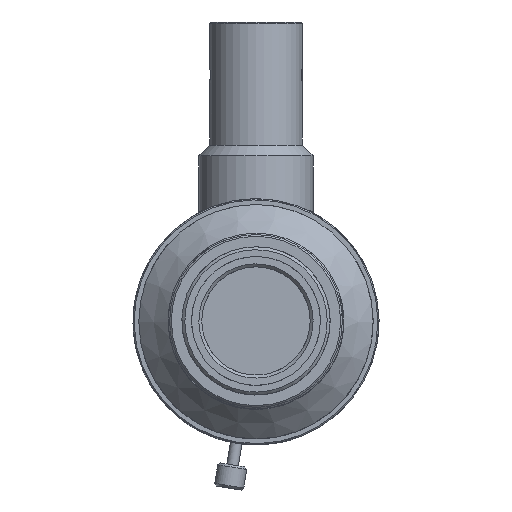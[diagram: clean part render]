
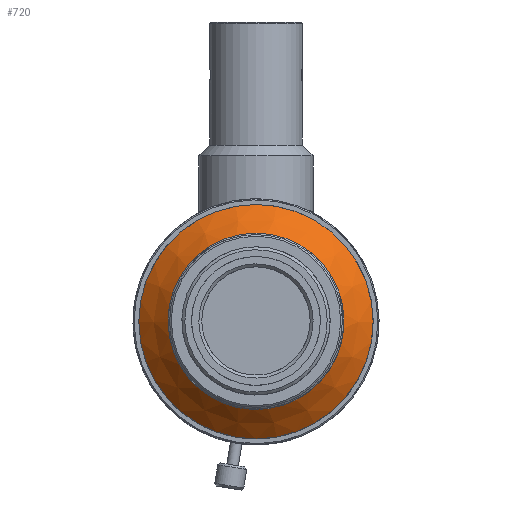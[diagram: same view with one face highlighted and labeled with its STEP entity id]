
A CAD part, top view. The second image highlights one B-rep face of the part: STEP entity #720.
In plain terms, the highlighted conical face has half-angle 45 degrees and reference radius 20 mm.
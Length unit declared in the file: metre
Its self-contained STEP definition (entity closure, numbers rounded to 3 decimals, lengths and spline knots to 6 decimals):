
#720=ADVANCED_FACE('4:112579',(#1807,#1808),#1809,.T.);
#1807=FACE_OUTER_BOUND('',#7169,.T.);
#1808=FACE_BOUND('',#7170,.T.);
#1809=CONICAL_SURFACE('',#7171,0.02,0.785);
#7169=EDGE_LOOP('',(#10852));
#7170=EDGE_LOOP('',(#10853));
#7171=AXIS2_PLACEMENT_3D('',#10854,#10855,#10856);
#10852=ORIENTED_EDGE('',*,*,#14020,.F.);
#10853=ORIENTED_EDGE('',*,*,#14021,.F.);
#10854=CARTESIAN_POINT('',(0.000838,0.001897,0.02758));
#10855=DIRECTION('',(0.,0.,-1.0));
#10856=DIRECTION('',(-1.0,0.0,0.));
#14020=EDGE_CURVE('4:115540',#15649,#15649,#15650,.T.);
#14021=EDGE_CURVE('4:115555',#15651,#15651,#15652,.F.);
#15649=VERTEX_POINT('',#19124);
#15650=CIRCLE('',#19125,0.02);
#15651=VERTEX_POINT('',#19126);
#15652=CIRCLE('',#19127,0.015);
#19124=CARTESIAN_POINT('',(-0.019162,0.001897,0.02758));
#19125=AXIS2_PLACEMENT_3D('',#21868,#21869,#21870);
#19126=CARTESIAN_POINT('',(-0.013977,0.004243,0.03258));
#19127=AXIS2_PLACEMENT_3D('',#21871,#21872,#21873);
#21868=CARTESIAN_POINT('',(0.000838,0.001897,0.02758));
#21869=DIRECTION('',(0.,0.,-1.0));
#21870=DIRECTION('',(-1.0,0.0,0.));
#21871=CARTESIAN_POINT('',(0.000838,0.001897,0.03258));
#21872=DIRECTION('',(0.,0.,-1.0));
#21873=DIRECTION('',(-0.988,0.156,0.));
